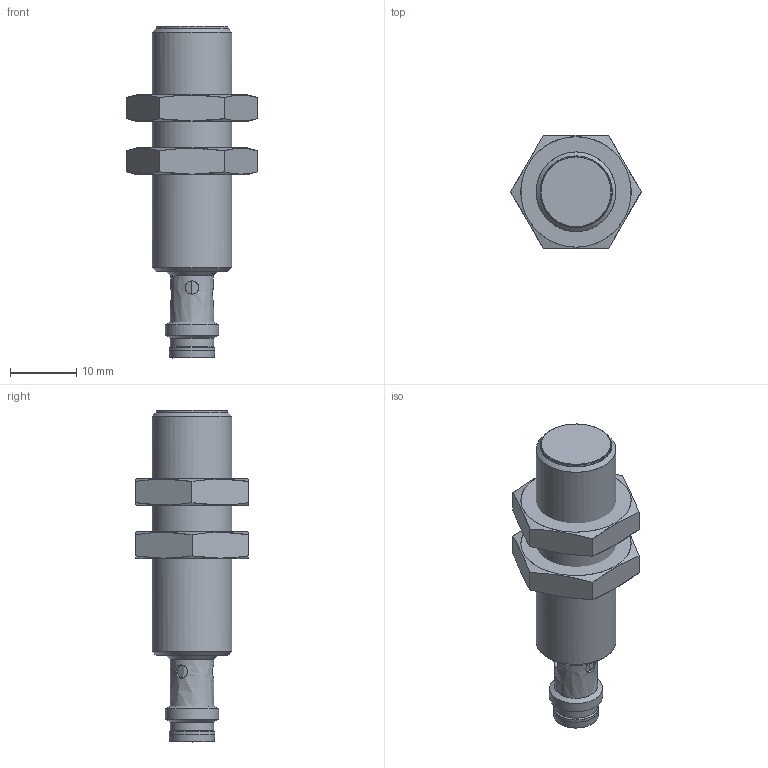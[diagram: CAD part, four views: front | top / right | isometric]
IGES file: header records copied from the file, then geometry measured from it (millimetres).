
Start section: C
Global section: file name: IFRM 12xxx01_S35L.igs; native system:  By UGS Corp.; preprocessor: XPlus GENERIC/IGES 3.0; author: Author; organization: Title; date: 20150216.083259; units: millimetre
Bounding box: 19.63 x 17 x 49.95 mm (x, y, z)
Surface area: 3662 mm2 (no closed solid volume)
Topology: 0 solids, 0 shells, 184 faces, 1024 edges, 1024 vertices
Faces by surface type: bspline 184
